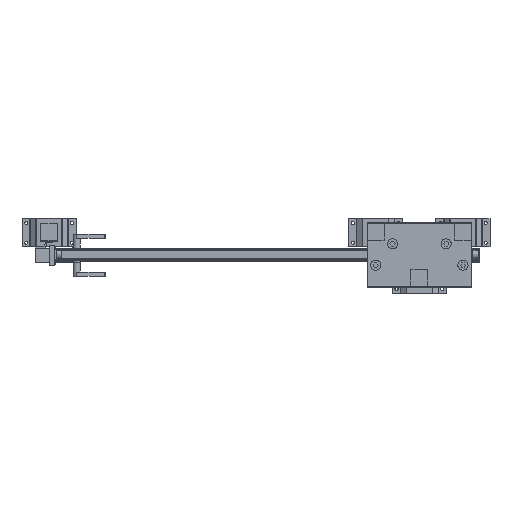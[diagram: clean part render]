
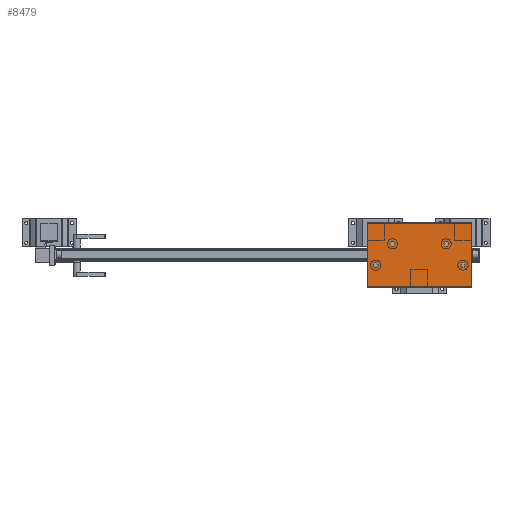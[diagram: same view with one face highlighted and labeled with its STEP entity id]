
A CAD part, top view. The second image highlights one B-rep face of the part: STEP entity #8479.
In plain terms, the highlighted planar face has unit normal (0, 0, 1).
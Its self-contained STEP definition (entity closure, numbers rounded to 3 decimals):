
#1129=FACE_OUTER_BOUND('',#1604,.T.);
#1604=EDGE_LOOP('',(#6929,#6930,#6931,#6932));
#2460=LINE('',#14874,#3511);
#2461=LINE('',#14876,#3512);
#2462=LINE('',#14878,#3513);
#2463=LINE('',#14879,#3514);
#3511=VECTOR('',#10794,1.);
#3512=VECTOR('',#10795,1.);
#3513=VECTOR('',#10796,1.);
#3514=VECTOR('',#10797,1.);
#4332=VERTEX_POINT('',#14872);
#4333=VERTEX_POINT('',#14873);
#4334=VERTEX_POINT('',#14875);
#4335=VERTEX_POINT('',#14877);
#5250=EDGE_CURVE('',#4332,#4333,#2460,.T.);
#5251=EDGE_CURVE('',#4334,#4332,#2461,.T.);
#5252=EDGE_CURVE('',#4334,#4335,#2462,.T.);
#5253=EDGE_CURVE('',#4333,#4335,#2463,.T.);
#6929=ORIENTED_EDGE('',*,*,#5250,.F.);
#6930=ORIENTED_EDGE('',*,*,#5251,.F.);
#6931=ORIENTED_EDGE('',*,*,#5252,.T.);
#6932=ORIENTED_EDGE('',*,*,#5253,.F.);
#8049=PLANE('',#9100);
#8479=ADVANCED_FACE('',(#1129),#8049,.T.);
#9100=AXIS2_PLACEMENT_3D('',#14871,#10792,#10793);
#10792=DIRECTION('center_axis',(0.,0.,1.));
#10793=DIRECTION('ref_axis',(1.,0.,0.));
#10794=DIRECTION('',(0.,1.,0.));
#10795=DIRECTION('',(-1.,0.,0.));
#10796=DIRECTION('',(0.,1.,0.));
#10797=DIRECTION('',(1.,0.,0.));
#14871=CARTESIAN_POINT('Origin',(2968.517,1887.18,2533.));
#14872=CARTESIAN_POINT('',(2968.517,1887.18,2533.));
#14873=CARTESIAN_POINT('',(2968.517,2117.18,2533.));
#14874=CARTESIAN_POINT('',(2968.517,1887.18,2533.));
#14875=CARTESIAN_POINT('',(3338.517,1887.18,2533.));
#14876=CARTESIAN_POINT('',(3338.517,1887.18,2533.));
#14877=CARTESIAN_POINT('',(3338.517,2117.18,2533.));
#14878=CARTESIAN_POINT('',(3338.517,1887.18,2533.));
#14879=CARTESIAN_POINT('',(3153.517,2117.18,2533.));
